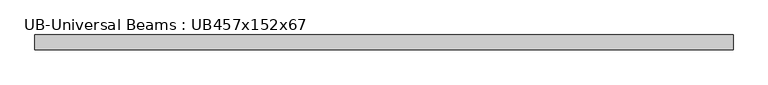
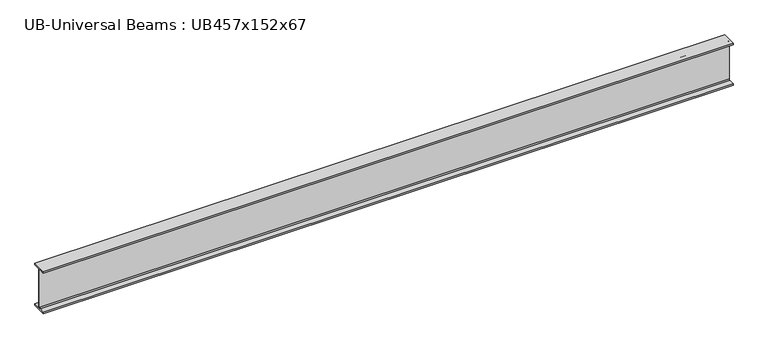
"""IFC4 building model written with IfcOpenShell, lengths in millimetres: beam geometry, UB-Universal Beams : UB457x152x67."""

import ifcopenshell
import ifcopenshell.guid

model = None  # the IFC model being written
_history = None  # IfcOwnerHistory: only IFC2X3 demands one
_inside = {}  # id of a spatial element -> (the spatial element, [elements in it])
_under = {}  # id of a project, library or spatial element -> (it, [spatial elements below it])
_declared = {}  # id of a project -> (the project, [libraries it declares])
_typed = {}  # id of a type object -> (the type object, [elements of that type])
_made_of = {}  # id of a material, layer set ... -> (it, [elements and type objects made of it])


def new_model(schema):
    """Start an empty IFC model of exactly this schema.

    Asked for "IFC4X3", IfcOpenShell would pick the latest addendum, in which some entities
    have other attributes; the version numbers below select the first issue.
    IFC2X3 requires an IfcOwnerHistory on every rooted entity: one is made here for all.
    """
    global model, _history
    if schema == "IFC4X3":
        model = ifcopenshell.file(schema_version=(4, 3, 0, 0))
    else:
        model = ifcopenshell.file(schema=schema)
    _inside.clear()
    _under.clear()
    _declared.clear()
    _typed.clear()
    _made_of.clear()
    _history = None
    if model.schema == "IFC2X3":
        org = make("IfcOrganization", Name="unknown")
        user = make(
            "IfcPersonAndOrganization",
            ThePerson=make("IfcPerson", FamilyName="unknown"),
            TheOrganization=org,
        )
        app = make(
            "IfcApplication",
            ApplicationDeveloper=org,
            Version="unknown",
            ApplicationFullName="unknown",
            ApplicationIdentifier="unknown",
        )
        _history = make(
            "IfcOwnerHistory",
            OwningUser=user,
            OwningApplication=app,
            ChangeAction="ADDED",
            CreationDate=0,
        )
    return model


def make(cls, **values):
    """One entity of the class cls with the attributes given. An attribute that is None is left unset."""
    return model.create_entity(
        cls, **{name: value for name, value in values.items() if value is not None}
    )


def rooted(cls, **values):
    """An entity with a GlobalId (a new one), such as an element, a storey or a relation."""
    return make(cls, GlobalId=ifcopenshell.guid.new(), OwnerHistory=_history, **values)


def si_unit(unit_type, name, prefix=None):
    """IfcSIUnit, for example si_unit("LENGTHUNIT", "METRE", prefix="MILLI")."""
    return make("IfcSIUnit", UnitType=unit_type, Prefix=prefix, Name=name)


def assignment(units):
    """IfcUnitAssignment: the units of a project."""
    return None if units is None else make("IfcUnitAssignment", Units=units)


def point(xyz):
    """IfcCartesianPoint."""
    return None if xyz is None else make("IfcCartesianPoint", Coordinates=xyz)


def direction(xyz):
    """IfcDirection."""
    return None if xyz is None else make("IfcDirection", DirectionRatios=xyz)


def frame(location, z_axis=None, x_axis=None):
    """IfcAxis2Placement3D, a coordinate frame: its origin and axes. An axis left out is left unset."""
    return make(
        "IfcAxis2Placement3D",
        Location=point(location),
        Axis=direction(z_axis),
        RefDirection=direction(x_axis),
    )


def frame_2d(location, x_axis=None):
    """IfcAxis2Placement2D, a coordinate frame in the plane: its origin and x axis."""
    return make(
        "IfcAxis2Placement2D", Location=point(location), RefDirection=direction(x_axis)
    )


def origin():
    """The frame at (0, 0, 0) with its axes left unset."""
    return frame((0.0, 0.0, 0.0))


def place(relative_to, where):
    """IfcLocalPlacement: puts the frame where relative to a parent placement (None: the world)."""
    return make(
        "IfcLocalPlacement", PlacementRelTo=relative_to, RelativePlacement=where
    )


def context(
    kind, dimensions, precision=None, world=None, true_north=None, identifier=None
):
    """IfcGeometricRepresentationContext, for example the 3D "Model" context."""
    return make(
        "IfcGeometricRepresentationContext",
        ContextIdentifier=identifier,
        ContextType=kind,
        CoordinateSpaceDimension=dimensions,
        Precision=precision,
        WorldCoordinateSystem=world,
        TrueNorth=true_north,
    )


def project(units=None, contexts=None):
    """IfcProject with its units and contexts."""
    return rooted(
        "IfcProject",
        Name="project",
        RepresentationContexts=contexts,
        UnitsInContext=assignment(units),
    )


def spatial(cls, under=None, at=None, **own):
    """A site, building, storey or space (cls), placed at a placement, below another one or the project."""
    s = rooted(cls, ObjectPlacement=at, **own)
    if under is not None:
        _under.setdefault(under.id(), (under, []))[1].append(s)
    return s


def polyline(points):
    """IfcPolyline through the points."""
    return make("IfcPolyline", Points=[point(p) for p in points])


def circle_curve(where, radius):
    """IfcCircle in the frame where."""
    return make("IfcCircle", Position=where, Radius=radius)


def trimmed(basis, trim1, trim2, sense, master):
    """IfcTrimmedCurve: the piece of a basis curve between two trims."""
    return make(
        "IfcTrimmedCurve",
        BasisCurve=basis,
        Trim1=trim1,
        Trim2=trim2,
        SenseAgreement=sense,
        MasterRepresentation=master,
    )


def segment(curve, same_sense, transition):
    """IfcCompositeCurveSegment."""
    return make(
        "IfcCompositeCurveSegment",
        Transition=transition,
        SameSense=same_sense,
        ParentCurve=curve,
    )


def composite_curve(segments, self_intersect=None):
    """IfcCompositeCurve: segments joined end to end."""
    return make("IfcCompositeCurve", Segments=segments, SelfIntersect=self_intersect)


def outline(outer, holes=None, kind="AREA"):
    """IfcArbitraryClosedProfileDef: a profile drawn as a closed curve; with holes, ...WithVoids."""
    if holes is None:
        return make("IfcArbitraryClosedProfileDef", ProfileType=kind, OuterCurve=outer)
    return make(
        "IfcArbitraryProfileDefWithVoids",
        ProfileType=kind,
        OuterCurve=outer,
        InnerCurves=holes,
    )


def extrude(swept, where, along, depth):
    """IfcExtrudedAreaSolid: the profile swept, set in the frame where, extruded along a direction by depth."""
    return make(
        "IfcExtrudedAreaSolid",
        SweptArea=swept,
        Position=where,
        ExtrudedDirection=direction(along),
        Depth=depth,
    )


def shape(context_of_items, identifier, shape_type, items):
    """IfcShapeRepresentation: the items that make up one representation, for example the "Body"."""
    return make(
        "IfcShapeRepresentation",
        ContextOfItems=context_of_items,
        RepresentationIdentifier=identifier,
        RepresentationType=shape_type,
        Items=items,
    )


def source(mapping_origin, context_of_items, identifier, shape_type, items):
    """IfcRepresentationMap: a shape defined once, which mapped items show again and again."""
    return make(
        "IfcRepresentationMap",
        MappingOrigin=mapping_origin,
        MappedRepresentation=shape(context_of_items, identifier, shape_type, items),
    )


def transform(
    local_origin,
    x_axis=None,
    y_axis=None,
    z_axis=None,
    scale=None,
    scale2=None,
    scale3=None,
    uniform=True,
):
    """IfcCartesianTransformationOperator3D, or its non-uniform kind. x_axis, y_axis, z_axis: its Axis1, 2, 3."""
    if uniform:
        return make(
            "IfcCartesianTransformationOperator3D",
            Axis1=direction(x_axis),
            Axis2=direction(y_axis),
            LocalOrigin=point(local_origin),
            Scale=scale,
            Axis3=direction(z_axis),
        )
    return make(
        "IfcCartesianTransformationOperator3DnonUniform",
        Axis1=direction(x_axis),
        Axis2=direction(y_axis),
        LocalOrigin=point(local_origin),
        Scale=scale,
        Axis3=direction(z_axis),
        Scale2=scale2,
        Scale3=scale3,
    )


def mapped(mapping_source, mapping_target):
    """IfcMappedItem: shows the shape of a source again, moved by a transform."""
    return make(
        "IfcMappedItem", MappingSource=mapping_source, MappingTarget=mapping_target
    )


def made_of(thing, what):
    """Note that an element or type object is made of a material, layer set ...; save() writes the relation."""
    if what is not None:
        _made_of.setdefault(what.id(), (what, []))[1].append(thing)
    return thing


def element(
    cls,
    number,
    at=None,
    inside=None,
    cuts=None,
    type_object=None,
    material=None,
    context=None,
    identifier="Body",
    shape_type=None,
    held_by="IfcProductDefinitionShape",
    body=None,
    shapes=None,
    **own,
):
    """One element of the class cls, such as IfcWall. Its Tag is "e" and its number.

    at: its placement. inside: the storey or other place that contains it. cuts: it is an
    opening in that element (IfcRelVoidsElement). A single representation is given by context,
    identifier, shape_type and body (its items); several are given by shapes. held_by: the class
    of the entity that holds the representations. save() writes the other relations.
    """
    e = rooted(cls, Tag="e%d" % number, ObjectPlacement=at, **own)
    if body is not None:
        shapes = [shape(context, identifier, shape_type, body)]
    if shapes is not None:
        e.Representation = make(held_by, Representations=shapes)
    if inside is not None:
        _inside.setdefault(inside.id(), (inside, []))[1].append(e)
    if cuts is not None:
        rooted(
            "IfcRelVoidsElement", RelatingBuildingElement=cuts, RelatedOpeningElement=e
        )
    if type_object is not None:
        _typed.setdefault(type_object.id(), (type_object, []))[1].append(e)
    return made_of(e, material)


def aggregate(whole, parts):
    """IfcRelAggregates: a whole, such as a stair, and the parts it consists of."""
    return rooted("IfcRelAggregates", RelatingObject=whole, RelatedObjects=parts)


def save(model, path):
    """Write the relations noted so far, then the file.

    IfcRelAggregates (storeys below a building ...), IfcRelContainedInSpatialStructure (elements
    in a storey), IfcRelDefinesByType, IfcRelAssociatesMaterial and IfcRelDeclares: one each for
    every whole, place, type object, material and project.
    """
    for whole, parts in _under.values():
        aggregate(whole, parts)
    for where, things in _inside.values():
        rooted(
            "IfcRelContainedInSpatialStructure",
            RelatedElements=things,
            RelatingStructure=where,
        )
    for kind, things in _typed.values():
        rooted("IfcRelDefinesByType", RelatedObjects=things, RelatingType=kind)
    for what, things in _made_of.values():
        rooted("IfcRelAssociatesMaterial", RelatedObjects=things, RelatingMaterial=what)
    for by, libraries in _declared.values():
        rooted("IfcRelDeclares", RelatingContext=by, RelatedDefinitions=libraries)
    model.write(path)


def ub_universal_beams_ub457x152x67_885cc86f(model_context):
    return source(origin(), model_context, "Body", "SweptSolid", [
        extrude(outline(composite_curve([segment(polyline([(76.9, -214.0), (76.9, -229.0), (-76.9, -229.0), (-76.9, -214.0), (-14.7, -214.0)]), True, "CONTINUOUS"), segment(trimmed(circle_curve(frame_2d((-14.7, -203.8)), 10.2), [point((-14.7, -214.0))], [point((-4.5, -203.8))], True, "CARTESIAN"), True, "CONTINUOUS"), segment(polyline([(-4.5, -203.8), (-4.5, 203.8)]), True, "CONTINUOUS"), segment(trimmed(circle_curve(frame_2d((-14.7, 203.8)), 10.2), [point((-4.5, 203.8))], [point((-14.7, 214.0))], True, "CARTESIAN"), True, "CONTINUOUS"), segment(polyline([(-14.7, 214.0), (-76.9, 214.0), (-76.9, 229.0), (76.9, 229.0), (76.9, 214.0), (14.7, 214.0)]), True, "CONTINUOUS"), segment(trimmed(circle_curve(frame_2d((14.7, 203.8)), 10.2), [point((14.7, 214.0))], [point((4.5, 203.8))], True, "CARTESIAN"), True, "CONTINUOUS"), segment(polyline([(4.5, 203.8), (4.5, -203.8)]), True, "CONTINUOUS"), segment(trimmed(circle_curve(frame_2d((14.7, -203.8)), 10.2), [point((4.5, -203.8))], [point((14.7, -214.0))], True, "CARTESIAN"), True, "CONTINUOUS"), segment(polyline([(14.7, -214.0), (76.9, -214.0)]), True, "CONTINUOUS")], self_intersect=False)), frame((-3566.9, 0.0, 0.0), z_axis=(1.0, 0.0, 0.0), x_axis=(0.0, 1.0, 0.0)), (0.0, 0.0, 1.0), 7141.7),
    ])


if __name__ == "__main__":
    model = new_model("IFC4")
    model_context = context("Model", 3, world=origin())
    ifc_project = project(units=[si_unit("LENGTHUNIT", "METRE", prefix="MILLI")], contexts=[model_context])
    site = spatial("IfcSite", under=ifc_project)
    building = spatial("IfcBuilding", under=site)
    placement = place(None, origin())
    ub_universal_beams_ub457x152x67_shape = ub_universal_beams_ub457x152x67_885cc86f(model_context)
    element("IfcBeam", 1, ObjectType="UB-Universal Beams : UB457x152x67", at=placement, inside=building, context=model_context, shape_type="MappedRepresentation", body=[
        mapped(ub_universal_beams_ub457x152x67_shape, transform((0.0, 0.0, 0.0), x_axis=(1.0, 0.0, 0.0), y_axis=(0.0, 1.0, 0.0), z_axis=(0.0, 0.0, 1.0))),
    ])
    save(model, "model.ifc")
